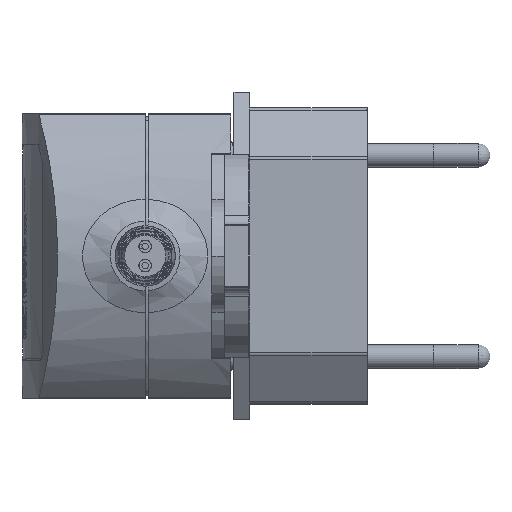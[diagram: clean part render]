
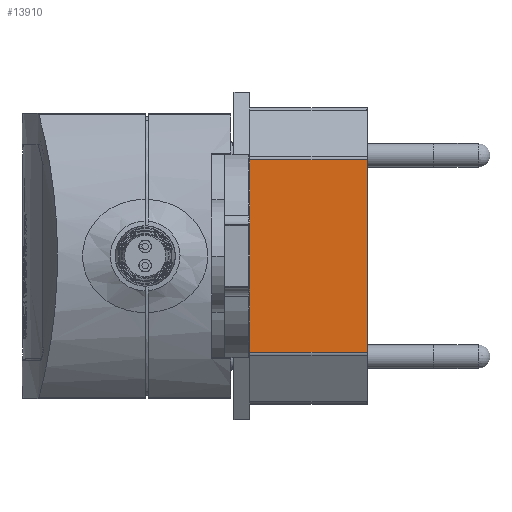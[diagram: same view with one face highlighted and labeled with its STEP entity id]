
A CAD part, left-side view. The second image highlights one B-rep face of the part: STEP entity #13910.
In plain terms, the highlighted planar face has unit normal (-1, 0, 0).
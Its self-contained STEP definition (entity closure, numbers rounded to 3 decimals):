
#1407 = EDGE_LOOP ( 'NONE', ( #35870, #19629, #9894, #22461 ) ) ;
#3519 = LINE ( 'NONE', #27437, #38987 ) ;
#4057 = DIRECTION ( 'NONE',  ( 0., 1., 0. ) ) ;
#4397 = VERTEX_POINT ( 'NONE', #28738 ) ;
#5569 = VERTEX_POINT ( 'NONE', #7123 ) ;
#6005 = DIRECTION ( 'NONE',  ( 0., 0., -1. ) ) ;
#7123 = CARTESIAN_POINT ( 'NONE',  ( 17.757, -6., 15.145 ) ) ;
#8577 = CARTESIAN_POINT ( 'NONE',  ( 17.757, -24.5, -15.145 ) ) ;
#9894 = ORIENTED_EDGE ( 'NONE', *, *, #19869, .F. ) ;
#10959 = CARTESIAN_POINT ( 'NONE',  ( 17.757, -24.5, 15.439 ) ) ;
#12822 = CARTESIAN_POINT ( 'NONE',  ( 17.757, -24.5, 15.145 ) ) ;
#13594 = VERTEX_POINT ( 'NONE', #8577 ) ;
#13910 = ADVANCED_FACE ( 'NONE', ( #38765 ), #35336, .F. ) ;
#14024 = DIRECTION ( 'NONE',  ( 0., -1., 0. ) ) ;
#14874 = LINE ( 'NONE', #14886, #15855 ) ;
#14886 = CARTESIAN_POINT ( 'NONE',  ( 17.757, -24.5, 15.439 ) ) ;
#15391 = EDGE_CURVE ( 'NONE', #5569, #4397, #3519, .T. ) ;
#15855 = VECTOR ( 'NONE', #21036, 1000. ) ;
#17451 = AXIS2_PLACEMENT_3D ( 'NONE', #10959, #32395, #14024 ) ;
#19629 = ORIENTED_EDGE ( 'NONE', *, *, #26097, .T. ) ;
#19869 = EDGE_CURVE ( 'NONE', #38050, #13594, #14874, .T. ) ;
#20144 = VECTOR ( 'NONE', #4057, 1000. ) ;
#20876 = CARTESIAN_POINT ( 'NONE',  ( 17.757, -24.5, -15.145 ) ) ;
#21036 = DIRECTION ( 'NONE',  ( 0., 0., -1. ) ) ;
#22461 = ORIENTED_EDGE ( 'NONE', *, *, #37352, .T. ) ;
#24230 = DIRECTION ( 'NONE',  ( 0., -1., 0. ) ) ;
#26097 = EDGE_CURVE ( 'NONE', #4397, #13594, #30873, .T. ) ;
#27437 = CARTESIAN_POINT ( 'NONE',  ( 17.757, -6., 15.439 ) ) ;
#28344 = LINE ( 'NONE', #37688, #20144 ) ;
#28738 = CARTESIAN_POINT ( 'NONE',  ( 17.757, -6., -15.145 ) ) ;
#30873 = LINE ( 'NONE', #20876, #38988 ) ;
#32395 = DIRECTION ( 'NONE',  ( 1., 0., 0. ) ) ;
#35336 = PLANE ( 'NONE',  #17451 ) ;
#35870 = ORIENTED_EDGE ( 'NONE', *, *, #15391, .T. ) ;
#37352 = EDGE_CURVE ( 'NONE', #38050, #5569, #28344, .T. ) ;
#37688 = CARTESIAN_POINT ( 'NONE',  ( 17.757, -24.5, 15.145 ) ) ;
#38050 = VERTEX_POINT ( 'NONE', #12822 ) ;
#38765 = FACE_OUTER_BOUND ( 'NONE', #1407, .T. ) ;
#38987 = VECTOR ( 'NONE', #6005, 1000. ) ;
#38988 = VECTOR ( 'NONE', #24230, 1000. ) ;
